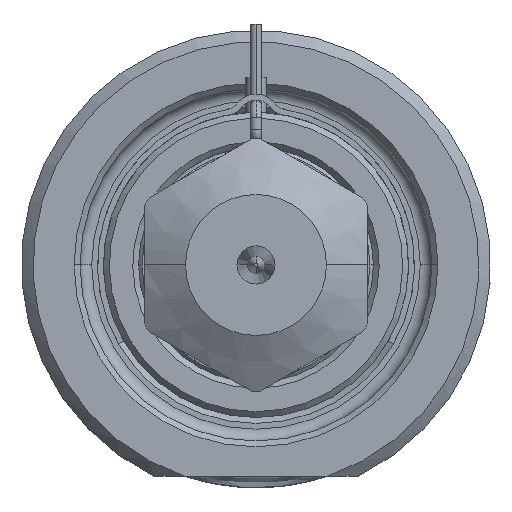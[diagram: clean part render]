
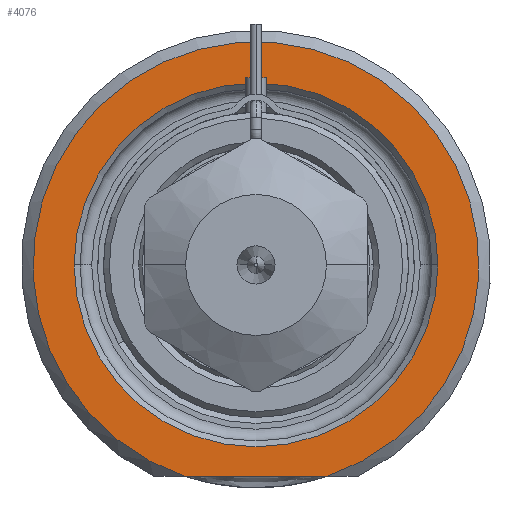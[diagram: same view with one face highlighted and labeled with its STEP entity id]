
A CAD part, front view. The second image highlights one B-rep face of the part: STEP entity #4076.
In plain terms, the highlighted planar face has unit normal (0, -1, 0).
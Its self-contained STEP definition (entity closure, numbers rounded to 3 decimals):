
#1=DIRECTION('',(1.,0.,0.));
#2=VECTOR('',#1,12.166);
#3=CARTESIAN_POINT('',(-6.083,0.,-18.));
#4=LINE('',#3,#2);
#5=CARTESIAN_POINT('',(0.,0.,0.));
#6=DIRECTION('',(0.,1.,0.));
#7=DIRECTION('',(-1.,0.,0.));
#8=AXIS2_PLACEMENT_3D('',#5,#6,#7);
#10=CARTESIAN_POINT('',(0.,0.,0.));
#11=DIRECTION('',(0.,1.,0.));
#12=DIRECTION('',(1.,0.,0.));
#13=AXIS2_PLACEMENT_3D('',#10,#11,#12);
#264=CARTESIAN_POINT('',(0.,0.,0.));
#265=DIRECTION('',(0.,-1.,0.));
#266=DIRECTION('',(0.32,0.,-0.947));
#267=AXIS2_PLACEMENT_3D('',#264,#265,#266);
#3431=CARTESIAN_POINT('',(-15.5,0.,0.));
#3432=CARTESIAN_POINT('',(15.5,0.,0.));
#3433=VERTEX_POINT('',#3431);
#3434=VERTEX_POINT('',#3432);
#3489=CARTESIAN_POINT('',(-6.083,0.,-18.));
#3490=CARTESIAN_POINT('',(6.083,0.,-18.));
#3491=VERTEX_POINT('',#3489);
#3492=VERTEX_POINT('',#3490);
#4059=CARTESIAN_POINT('',(0.,0.,0.));
#4060=DIRECTION('',(0.,-1.,0.));
#4061=DIRECTION('',(1.,0.,0.));
#4062=AXIS2_PLACEMENT_3D('',#4059,#4060,#4061);
#4063=PLANE('',#4062);
#4065=ORIENTED_EDGE('',*,*,#4064,.F.);
#4067=ORIENTED_EDGE('',*,*,#4066,.F.);
#4068=EDGE_LOOP('',(#4065,#4067));
#4069=FACE_OUTER_BOUND('',#4068,.F.);
#4071=ORIENTED_EDGE('',*,*,#4070,.F.);
#4073=ORIENTED_EDGE('',*,*,#4072,.F.);
#4074=EDGE_LOOP('',(#4071,#4073));
#4075=FACE_BOUND('',#4074,.F.);
#4076=ADVANCED_FACE('',(#4069,#4075),#4063,.T.);
#9=CIRCLE('',#8,15.5);
#14=CIRCLE('',#13,15.5);
#268=CIRCLE('',#267,19.);
#4064=EDGE_CURVE('',#3491,#3492,#4,.T.);
#4066=EDGE_CURVE('',#3492,#3491,#268,.T.);
#4070=EDGE_CURVE('',#3433,#3434,#9,.T.);
#4072=EDGE_CURVE('',#3434,#3433,#14,.T.);
